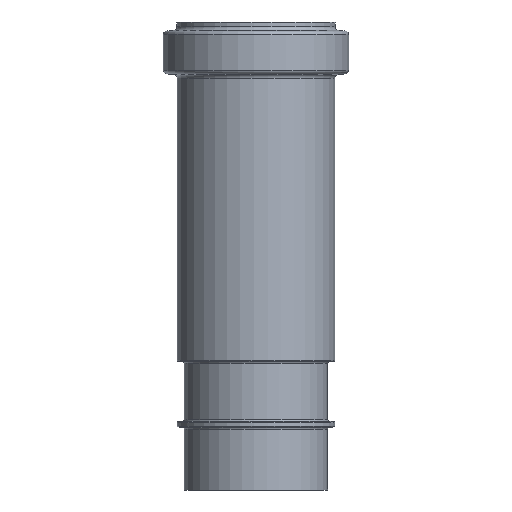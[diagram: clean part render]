
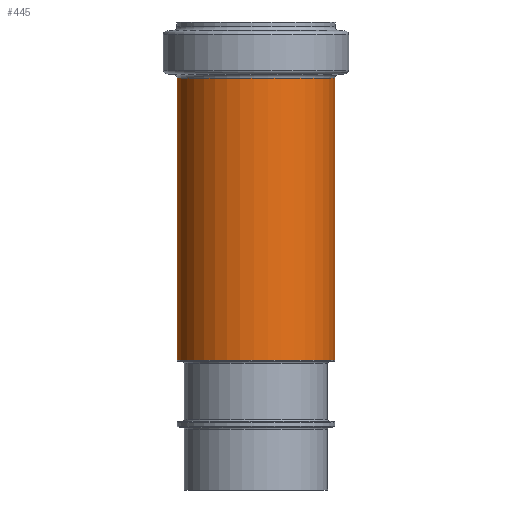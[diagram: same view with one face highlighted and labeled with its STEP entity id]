
A CAD part, front view. The second image highlights one B-rep face of the part: STEP entity #445.
In plain terms, the highlighted cylindrical face has radius 41.45 mm (diameter 82.9 mm), a full revolution.
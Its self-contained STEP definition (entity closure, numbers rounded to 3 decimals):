
#28=CYLINDRICAL_SURFACE('',#511,41.45);
#47=FACE_BOUND('',#136,.T.);
#85=FACE_OUTER_BOUND('',#135,.T.);
#135=EDGE_LOOP('',(#325));
#136=EDGE_LOOP('',(#326));
#191=CIRCLE('',#493,41.45);
#201=CIRCLE('',#512,41.45);
#229=VERTEX_POINT('',#728);
#239=VERTEX_POINT('',#757);
#267=EDGE_CURVE('',#229,#229,#191,.T.);
#277=EDGE_CURVE('',#239,#239,#201,.T.);
#325=ORIENTED_EDGE('',*,*,#277,.T.);
#326=ORIENTED_EDGE('',*,*,#267,.T.);
#445=ADVANCED_FACE('',(#85,#47),#28,.T.);
#493=AXIS2_PLACEMENT_3D('',#729,#579,#580);
#511=AXIS2_PLACEMENT_3D('',#756,#615,#616);
#512=AXIS2_PLACEMENT_3D('',#758,#617,#618);
#579=DIRECTION('center_axis',(0.,0.,-1.));
#580=DIRECTION('ref_axis',(-0.878,-0.479,0.));
#615=DIRECTION('center_axis',(0.,0.,1.));
#616=DIRECTION('ref_axis',(1.,0.,0.));
#617=DIRECTION('center_axis',(0.,0.,1.));
#618=DIRECTION('ref_axis',(-0.878,-0.479,0.));
#728=CARTESIAN_POINT('',(-36.376,-19.872,-29.638));
#729=CARTESIAN_POINT('Origin',(0.,0.,-29.638));
#756=CARTESIAN_POINT('Origin',(0.,0.,-123.165));
#757=CARTESIAN_POINT('',(36.376,19.872,-178.007));
#758=CARTESIAN_POINT('Origin',(0.,0.,-178.007));
